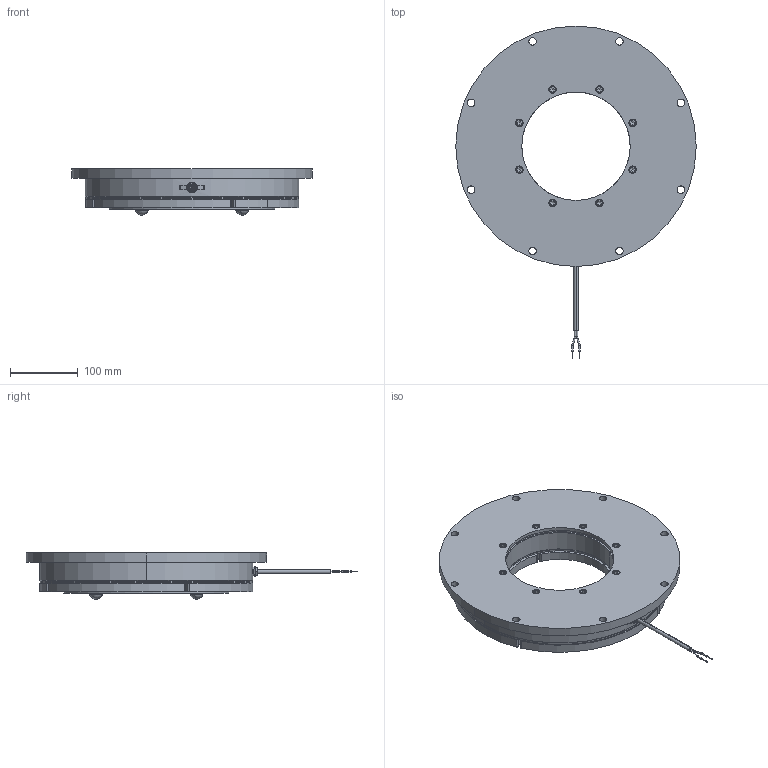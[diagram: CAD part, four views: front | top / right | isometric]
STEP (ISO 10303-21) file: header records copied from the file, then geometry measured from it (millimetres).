
FILE_DESCRIPTION (( 'STEP AP214' ), '1' );
FILE_NAME ('dr_bk_1302-110_mu.STEP', '2026-09-10T06:43:15', ( '' ), ( '' ), 'SwSTEP 2.0', 'SolidWorks 2025', '' );
FILE_SCHEMA (( 'AUTOMOTIVE_DESIGN' ));
Length unit declared in the file: millimetre
Products named in the file (7): 10090962swa000; 10090965swp000; 10090961swp000; 10090964swp000_genietet; 10090963swp000; dr_bk_1302-110_mu; 10090966swp000
Assembly tree (12 placements, depth 3):
  dr_bk_1302-110_mu
    10090961swp000
    10090962swa000
      10090966swp000
      10090965swp000
      10090964swp000_genietet  x4
      10090963swp000  x4
Bounding box: 355 x 490.05 x 68.2 mm (x, y, z)
Volume: 3577391.2 mm3; surface area: 435961.2 mm2
Topology: 13 solids, 13 shells, 489 faces, 1114 edges, 684 vertices
Faces by surface type: cylinder 219, plane 190, cone 38, torus 28, sphere 14
Entity records: 16836 total; most frequent: DIRECTION 2406, CARTESIAN_POINT 2364, ORIENTED_EDGE 2060, EDGE_CURVE 1030, AXIS2_PLACEMENT_3D 931, VERTEX_POINT 633, VECTOR 544, LINE 544
